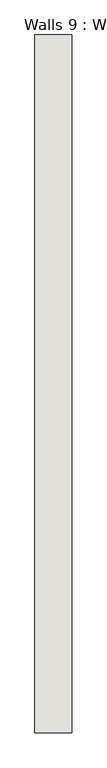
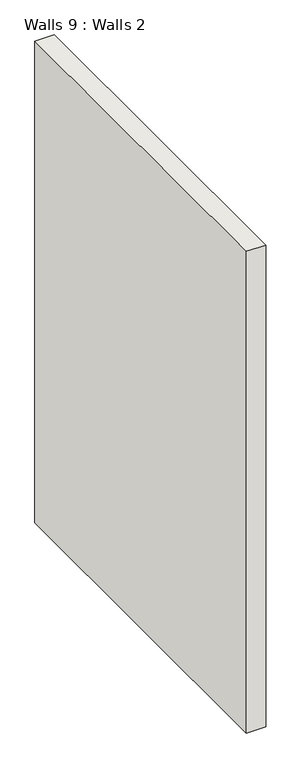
"""IFC4 building model written with IfcOpenShell, lengths in millimetres: wall geometry, Walls 9 : Walls 2."""

from ifc_helpers import new_model, si_unit, frame, origin, place, context, project, spatial, polyline, outline, extrude, source, transform, mapped, element, save


def walls_9_walls_2_d23d17f2(model_context):
    return source(origin(), model_context, "Body", "SweptSolid", [
        extrude(outline(polyline([(7413.9835737, 5483.9544085), (7413.9835737, 6925.8182846), (7490.0690161, 6925.8182846), (7490.0690161, 5483.9544085), (7413.9835737, 5483.9544085)])), frame((0.0, 0.0, 330.1752743), z_axis=(0.0, 0.0, 1.0), x_axis=(1.0, 0.0, 0.0)), (0.0, 0.0, 1.0), 2003.3500121),
    ])


if __name__ == "__main__":
    model = new_model("IFC4")
    model_context = context("Model", 3, world=origin())
    ifc_project = project(units=[si_unit("LENGTHUNIT", "METRE", prefix="MILLI")], contexts=[model_context])
    site = spatial("IfcSite", under=ifc_project)
    building = spatial("IfcBuilding", under=site)
    placement = place(None, origin())
    walls_9_walls_2_shape = walls_9_walls_2_d23d17f2(model_context)
    element("IfcWall", 1, ObjectType="Walls 9 : Walls 2", at=placement, inside=building, context=model_context, shape_type="MappedRepresentation", body=[
        mapped(walls_9_walls_2_shape, transform((0.0, 0.0, 0.0), x_axis=(1.0, 0.0, 0.0), y_axis=(0.0, 1.0, 0.0), z_axis=(0.0, 0.0, 1.0))),
    ])
    save(model, "model.ifc")
